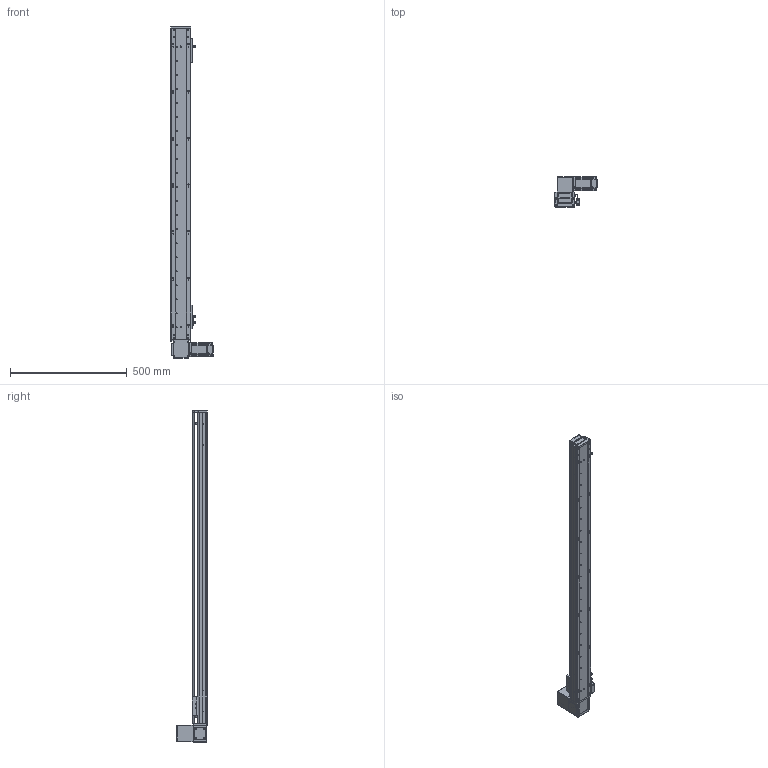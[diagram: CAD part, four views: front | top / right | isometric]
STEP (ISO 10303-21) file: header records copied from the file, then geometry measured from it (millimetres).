
FILE_DESCRIPTION (( 'STEP AP203' ), '1' );
FILE_NAME ('RY80-T-300-UR.SLDASM_1150.step', '2021-03-01T02:26:56', ( '盈信电脑' ), ( '东莞市道滘镇水果街19号' ), 'SwSTEP 2.0', 'SolidWorks 2012', '' );
FILE_SCHEMA (( 'CONFIG_CONTROL_DESIGN' ));
Length unit declared in the file: millimetre
Products named in the file (20): RY80-T-300-UR.SLDASM_1150; RY80-T肮祭謫奻殏俋欶; RY80-T-M4蹟翐2; RY80-T萇儂假蚾啣; 1; RY100-T粣創揤踡裔; RY80-T-上下折同步轮盖板; RY80-T翋肮祭謫裔啣; RY80-T肮祭湍揤輸1; 滅袉蝶18-10; RY80-T肮祭湍揤輸2; RY80-T粣創揤踡輸; 672嫖萇羲壽假蚾釱; RY80-T-翋肮祭謫釱; RY80俋离覜茼え; 覜茼ん672; RY80-T肮祭謫臏賑輸; RY80-T-300-UR倰第菁釱_1150; RY80-T-300-UR倰第奻裔啣_1150; RY80-T綴裔啣
Assembly tree (23 placements, depth 2):
  RY80-T-300-UR.SLDASM_1150
    RY80-T-300-UR倰第菁釱_1150
    RY80-T肮祭謫臏賑輸
    RY80-T-300-UR倰第奻裔啣_1150
    RY80-T綴裔啣
    672嫖萇羲壽假蚾釱  x2
    覜茼ん672  x3
    RY80俋离覜茼え
    RY80-T-翋肮祭謫釱
    RY80-T肮祭湍揤輸1
    RY80-T肮祭湍揤輸2
    RY80-T粣創揤踡輸
    滅袉蝶18-10  x2
    RY100-T粣創揤踡裔
    RY80-T翋肮祭謫裔啣
    RY80-T-上下折同步轮盖板
    1
    RY80-T肮祭謫奻殏俋欶
    RY80-T-M4蹟翐2
    RY80-T萇儂假蚾啣
Bounding box: 180 x 130.5 x 1420 mm (x, y, z)
Volume: 2386658.8 mm3; surface area: 1001886.9 mm2
Topology: 23 solids, 23 shells, 2492 faces, 6868 edges, 4462 vertices
Faces by surface type: plane 1337, cylinder 958, cone 141, bspline 56
Entity records: 79566 total; most frequent: CARTESIAN_POINT 19140, ORIENTED_EDGE 12380, DIRECTION 11692, EDGE_CURVE 6190, VERTEX_POINT 4066, AXIS2_PLACEMENT_3D 3942, VECTOR 3808, LINE 3808
